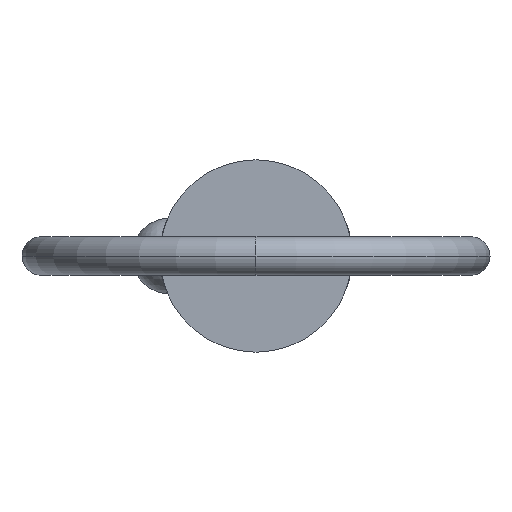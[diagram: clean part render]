
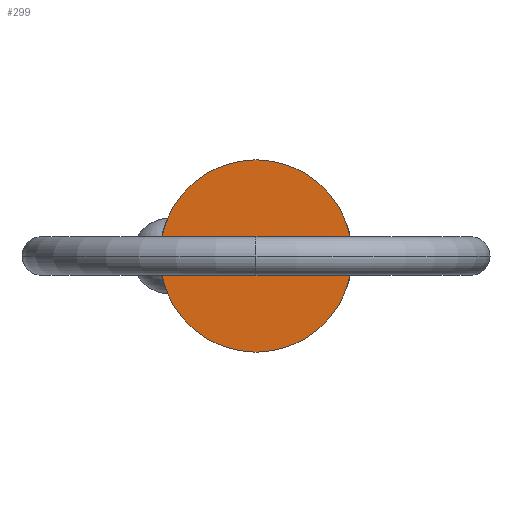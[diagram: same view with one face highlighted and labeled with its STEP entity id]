
A CAD part, left-side view. The second image highlights one B-rep face of the part: STEP entity #299.
In plain terms, the highlighted planar face has unit normal (-1, 0, 0).
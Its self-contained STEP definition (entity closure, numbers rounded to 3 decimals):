
#16 = DIRECTION ( 'NONE',  ( 0., 0., 1. ) ) ;
#142 = CARTESIAN_POINT ( 'NONE',  ( 0., 0., 0. ) ) ;
#199 = DIRECTION ( 'NONE',  ( 0., 0., -1. ) ) ;
#236 = PLANE ( 'NONE',  #560 ) ;
#299 = ADVANCED_FACE ( 'NONE', ( #575 ), #236, .T. ) ;
#314 = CIRCLE ( 'NONE', #587, 7.11 ) ;
#406 = DIRECTION ( 'NONE',  ( 1., 0., 0. ) ) ;
#443 = CARTESIAN_POINT ( 'NONE',  ( 0., 0., 0. ) ) ;
#452 = CARTESIAN_POINT ( 'NONE',  ( 0., 0., -7.11 ) ) ;
#501 = ORIENTED_EDGE ( 'NONE', *, *, #857, .F. ) ;
#521 = DIRECTION ( 'NONE',  ( -1., 0., 0. ) ) ;
#522 = EDGE_LOOP ( 'NONE', ( #859, #501 ) ) ;
#539 = CARTESIAN_POINT ( 'NONE',  ( 0., 0., 0. ) ) ;
#541 = EDGE_CURVE ( 'NONE', #786, #781, #837, .T. ) ;
#560 = AXIS2_PLACEMENT_3D ( 'NONE', #443, #521, #16 ) ;
#575 = FACE_OUTER_BOUND ( 'NONE', #522, .T. ) ;
#587 = AXIS2_PLACEMENT_3D ( 'NONE', #539, #595, #606 ) ;
#595 = DIRECTION ( 'NONE',  ( 1., 0., 0. ) ) ;
#606 = DIRECTION ( 'NONE',  ( 0., 0., -1. ) ) ;
#781 = VERTEX_POINT ( 'NONE', #791 ) ;
#786 = VERTEX_POINT ( 'NONE', #452 ) ;
#791 = CARTESIAN_POINT ( 'NONE',  ( 0., 0., 7.11 ) ) ;
#837 = CIRCLE ( 'NONE', #871, 7.11 ) ;
#857 = EDGE_CURVE ( 'NONE', #781, #786, #314, .T. ) ;
#859 = ORIENTED_EDGE ( 'NONE', *, *, #541, .F. ) ;
#871 = AXIS2_PLACEMENT_3D ( 'NONE', #142, #406, #199 ) ;
